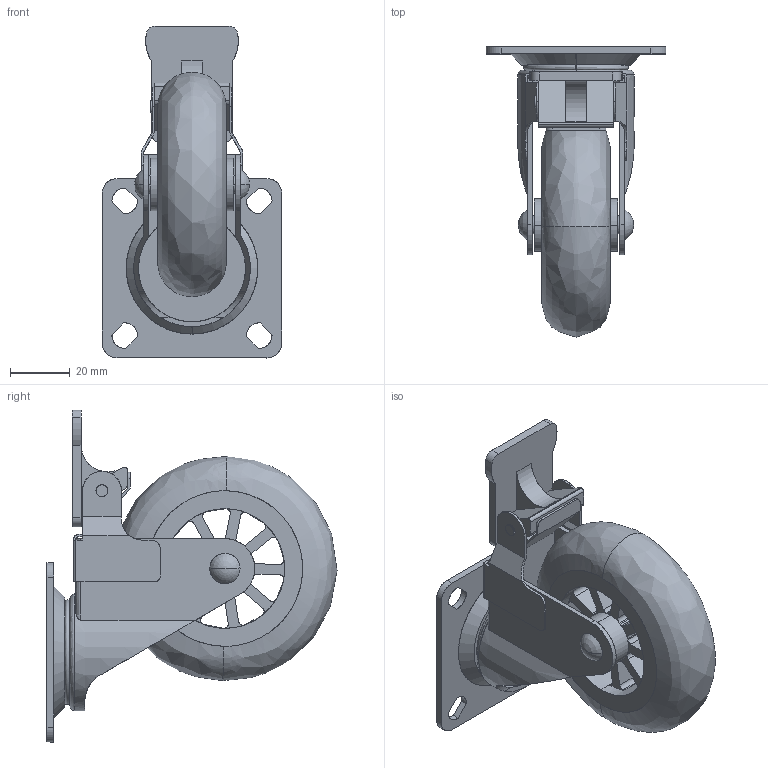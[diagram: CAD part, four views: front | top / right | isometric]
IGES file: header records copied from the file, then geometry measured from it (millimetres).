
Start section: SolidWorks IGES file using analytic representation for surfaces
Bounding box: 60 x 96.99 x 111 mm (x, y, z)
Surface area: 47906.9 mm2 (no closed solid volume)
Topology: 0 solids, 0 shells, 254 faces, 3952 edges, 3949 vertices
Faces by surface type: revolution 128, bspline 126
